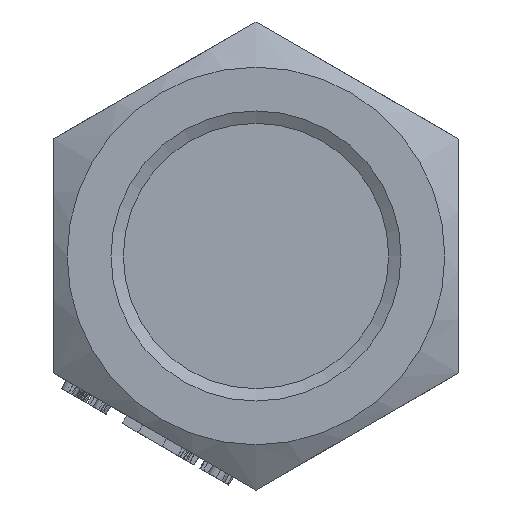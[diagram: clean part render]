
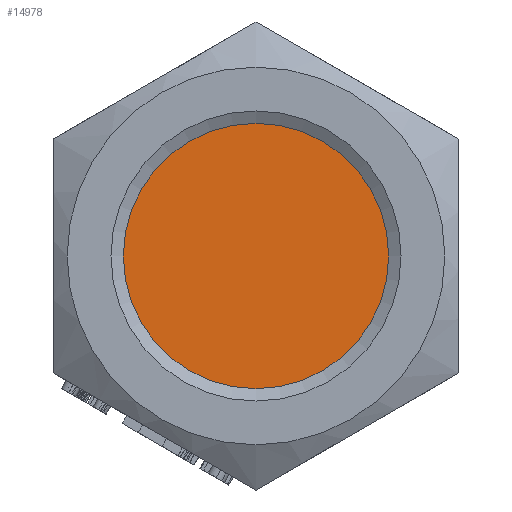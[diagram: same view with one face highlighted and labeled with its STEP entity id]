
A CAD part, front view. The second image highlights one B-rep face of the part: STEP entity #14978.
In plain terms, the highlighted planar face has unit normal (0, -1, 0).
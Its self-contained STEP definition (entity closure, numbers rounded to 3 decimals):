
#47=CIRCLE('',#15552,7.2);
#1165=FACE_OUTER_BOUND('',#2028,.T.);
#2028=EDGE_LOOP('',(#13566));
#7207=VERTEX_POINT('',#26446);
#9337=EDGE_CURVE('',#7207,#7207,#47,.T.);
#13566=ORIENTED_EDGE('',*,*,#9337,.F.);
#14196=PLANE('',#15553);
#14978=ADVANCED_FACE('',(#1165),#14196,.T.);
#15552=AXIS2_PLACEMENT_3D('',#26447,#18310,#18311);
#15553=AXIS2_PLACEMENT_3D('',#26448,#18312,#18313);
#18310=DIRECTION('center_axis',(0.,1.,0.));
#18311=DIRECTION('ref_axis',(-1.,0.,0.));
#18312=DIRECTION('center_axis',(0.,-1.,0.));
#18313=DIRECTION('ref_axis',(0.,0.,-1.));
#26446=CARTESIAN_POINT('',(-7.2,11.,0.));
#26447=CARTESIAN_POINT('Origin',(0.,11.,0.));
#26448=CARTESIAN_POINT('Origin',(-6.85,11.,0.));
